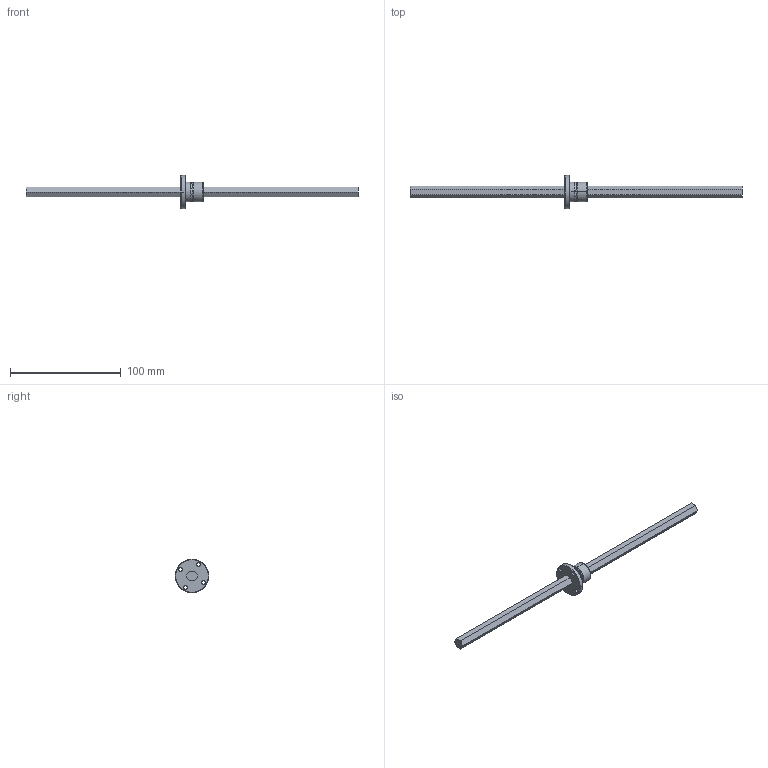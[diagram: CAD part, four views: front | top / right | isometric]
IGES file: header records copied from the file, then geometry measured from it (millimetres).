
Global section: file name: No Iges File Name specified; native system: AutoDesk Inventor R10; preprocessor: AutoDesk Inventor Iges Exporter R10; author: No Author specified; organization: No Organization specified; date: 20101224.162059; units: millimetre
Bounding box: 300 x 30 x 30 mm (x, y, z)
Surface area: 12791.2 mm2 (no closed solid volume)
Topology: 0 solids, 0 shells, 55 faces, 374 edges, 374 vertices
Faces by surface type: bspline 55
